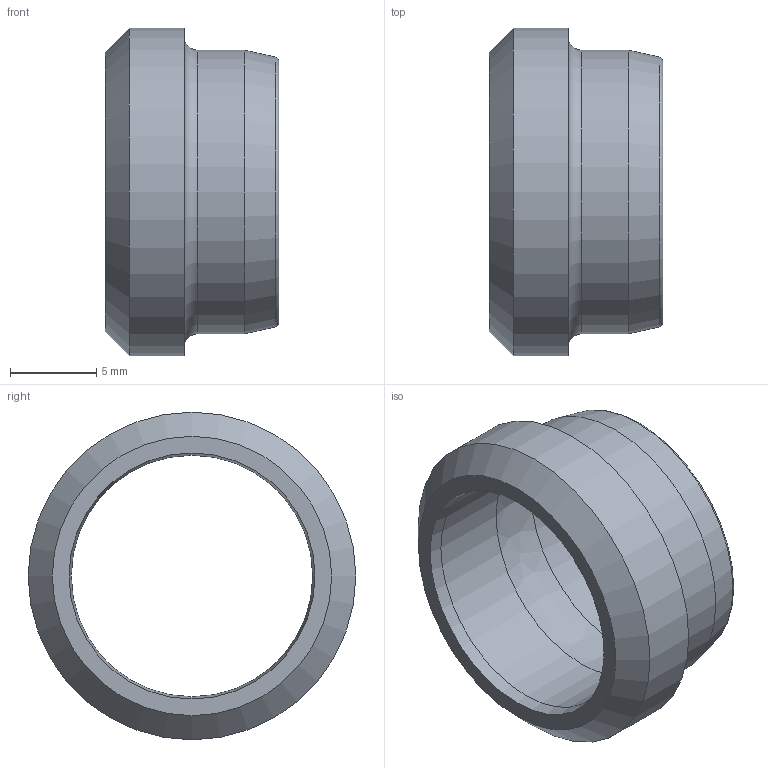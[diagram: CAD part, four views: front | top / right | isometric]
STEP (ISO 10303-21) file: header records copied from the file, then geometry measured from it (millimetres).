
FILE_DESCRIPTION( ( 'Unknown' ), '1' );
FILE_NAME( 'C:/Users/p.nanko/Desktop/3D SR/D14S.stp', 'Unknown', ( 'Peter Nanko' ), ( 'Armaturen Arndt' ), 'PSStep 14.0', 'Solid Edge ST4', ' ' );
FILE_SCHEMA( ( 'AUTOMOTIVE_DESIGN { 1 0 10303 214 1 1 1 1 }' ) );
Length unit declared in the file: millimetre
Products named in the file (1): 1001ESTERNO#0
Bounding box: 10.07 x 19 x 19 mm (x, y, z)
Volume: 798.9 mm3; surface area: 1181.7 mm2
Topology: 1 solids, 1 shells, 15 faces, 31 edges, 20 vertices
Faces by surface type: plane 4, cone 4, torus 3, cylinder 3, bspline 1
Full cylindrical faces by diameter (mm): 14 x1, 16.45 x1, 19 x1
Entity records: 467 total; most frequent: CARTESIAN_POINT 73, DIRECTION 60, AXIS2_PLACEMENT_3D 30, EDGE_LOOP 30, ORIENTED_EDGE 30, FACE_OUTER_BOUND 22, STYLED_ITEM 15, PRESENTATION_STYLE_ASSIGNMENT 15
